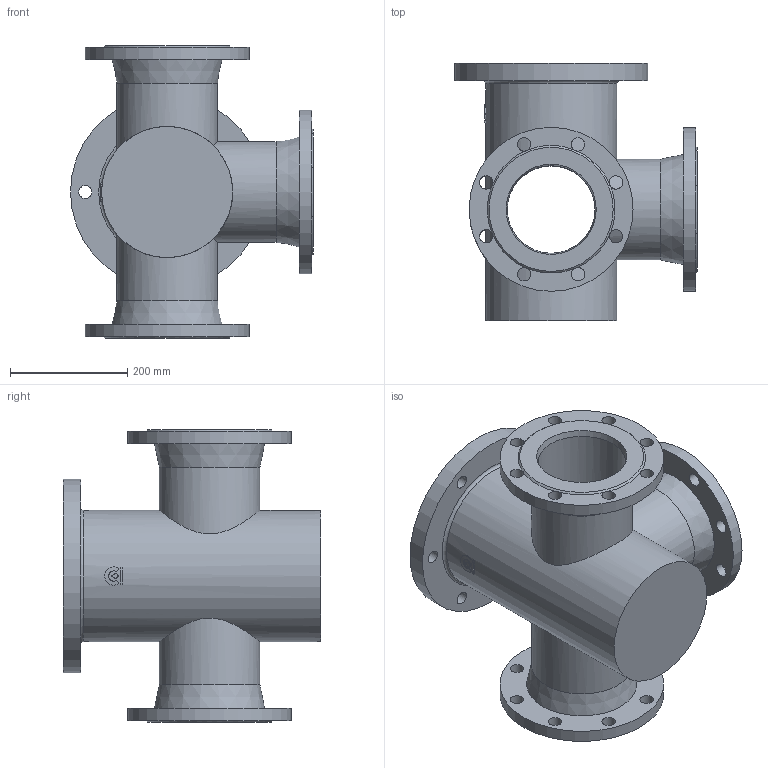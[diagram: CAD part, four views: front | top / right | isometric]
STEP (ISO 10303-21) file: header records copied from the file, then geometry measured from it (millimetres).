
FILE_DESCRIPTION(('STEP AP203'), '1');
FILE_NAME('Ïîäñòàâêà ïîæàðíàÿ ôëàíöåâàÿ PPTF DN150', '', ('UNSPECIFIED'), ('UNSPECIFIED'), 'ASCON STEP Converter 1.6', 'ASCON Math Kernel', '');
FILE_SCHEMA(('CONFIG_CONTROL_DESIGN'));
Length unit declared in the file: millimetre
Bounding box: 415 x 440 x 500 mm (x, y, z)
Volume: 9726720.4 mm3; surface area: 1399623.4 mm2
Topology: 1 solids, 1 shells, 86 faces, 287 edges, 188 vertices
Faces by surface type: cylinder 54, plane 21, cone 9, torus 2
Full cylindrical faces by diameter (mm): 22 x6, 23 x24, 150 x3, 172 x3, 175 x1, 200 x1, 224 x1, 232 x1, 280 x3, 330 x1
Entity records: 7207 total; most frequent: CARTESIAN_POINT 4068, DIRECTION 492, ORIENTED_EDGE 460, AXIS2_PLACEMENT_3D 237, EDGE_CURVE 230, EDGE_LOOP 194, VERTEX_POINT 188, CIRCLE 150
